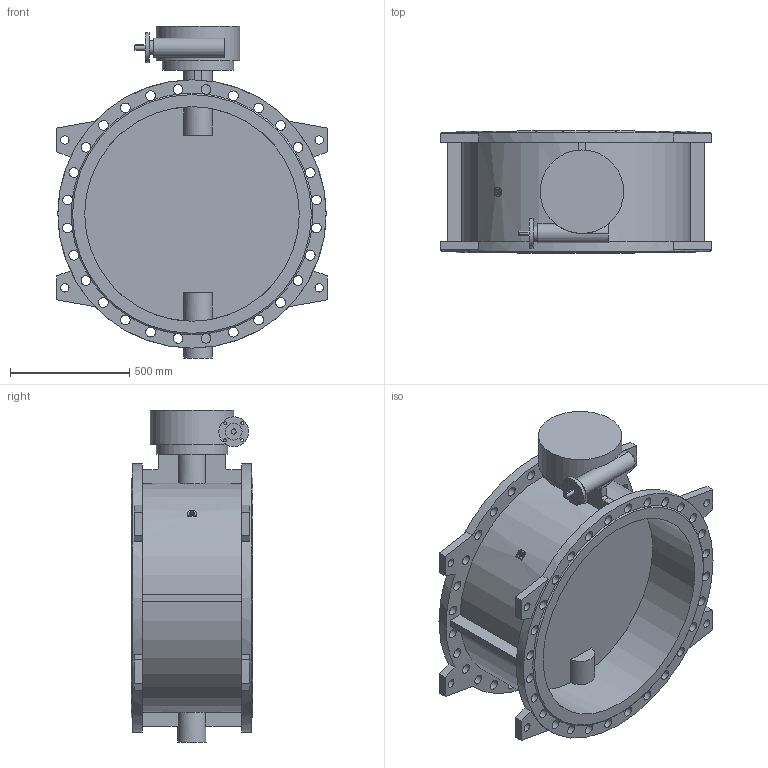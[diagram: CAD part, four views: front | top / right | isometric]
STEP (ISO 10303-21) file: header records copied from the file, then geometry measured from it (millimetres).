
FILE_DESCRIPTION(('STEP AP203'), '1');
FILE_NAME('Çàòâîð 023F.Z DN900 PN16_ð-ð_ôë', '', ('UNSPECIFIED'), ('UNSPECIFIED'), 'ASCON STEP Converter 1.6', 'ASCON Math Kernel', '');
FILE_SCHEMA(('CONFIG_CONTROL_DESIGN'));
Length unit declared in the file: millimetre
Bounding box: 1136 x 510 x 1392 mm (x, y, z)
Volume: 134505844.8 mm3; surface area: 6497982.8 mm2
Topology: 1 solids, 1 shells, 223 faces, 740 edges, 490 vertices
Faces by surface type: cylinder 114, plane 107, cone 2
Full cylindrical faces by diameter (mm): 12 x4, 14 x8, 18 x8, 20 x1, 35 x8, 41 x56, 60 x1, 70 x1, 80 x1, 120 x1, 125 x1, 300 x1, 350 x1, 900 x2, 1125 x2
Entity records: 13763 total; most frequent: CARTESIAN_POINT 5448, DIRECTION 1373, ORIENTED_EDGE 1276, EDGE_CURVE 638, AXIS2_PLACEMENT_3D 587, VERTEX_POINT 489, EDGE_LOOP 429, CIRCLE 364
